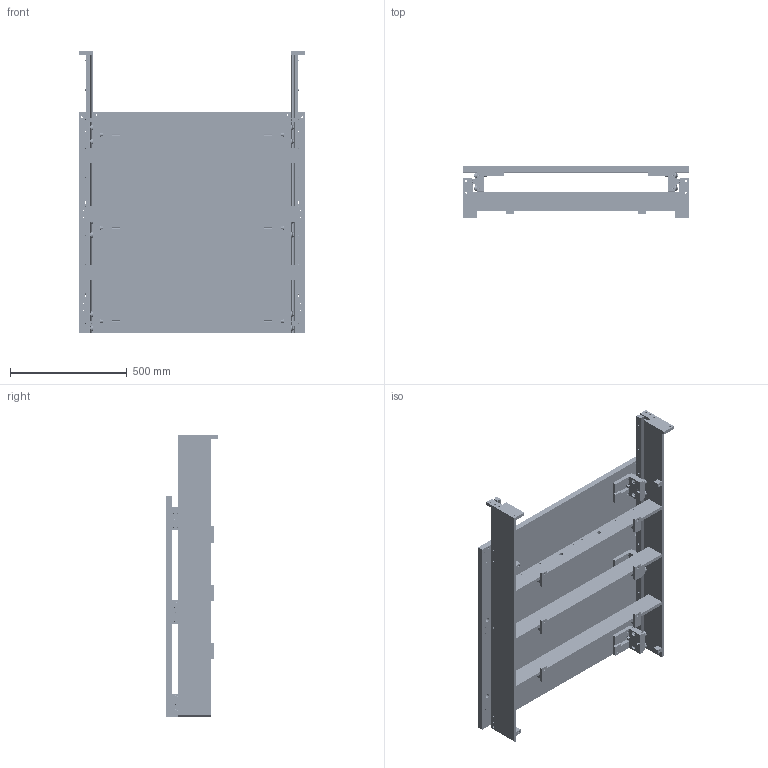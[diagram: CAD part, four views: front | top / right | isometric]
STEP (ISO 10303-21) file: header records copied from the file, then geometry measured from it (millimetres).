
FILE_DESCRIPTION(/* description */ (''),/* implementation_level */ '2;1');
FILE_NAME(/* name */ '2001_assieme_FULL.stp',/* time_stamp */ '2020-01-16T11:04:09+01:00',/* author */ (''),/* organization */ (''),/* preprocessor_version */ 'ST-DEVELOPER v16.7',/* originating_system */ 'SIEMENS PLM Software NX 12.0',/* authorisation */ '');
FILE_SCHEMA (('AUTOMOTIVE_DESIGN { 1 0 10303 214 3 1 1 1 }'));
Products named in the file (1): bmas28EC4ACD3exo
Bounding box: 968 x 220 x 1208 mm (x, y, z)
Volume: 35268318 mm3; surface area: 4714912.5 mm2
Topology: 578 solids, 578 shells, 6476 faces, 15323 edges, 9551 vertices
Faces by surface type: cylinder 2646, plane 2216, torus 740, sphere 448, cone 426
Full cylindrical faces by diameter (mm): 3 x4, 5 x52, 5.795 x20, 6.6 x4, 6.8 x110, 7.76 x48, 8 x4, 8.4 x48, 8.5 x4, 9 x48, 10 x20, 10.3 x4, 11 x6, 12 x4, 13 x48, 17 x48, 18 x2, 19 x22, 20 x24
Entity records: 229617 total; most frequent: CARTESIAN_POINT 48023, DIRECTION 32852, ORIENTED_EDGE 26728, AXIS2_PLACEMENT_3D 13907, EDGE_CURVE 13364, VERTEX_POINT 9366, EDGE_LOOP 8654, CIRCLE 7430
